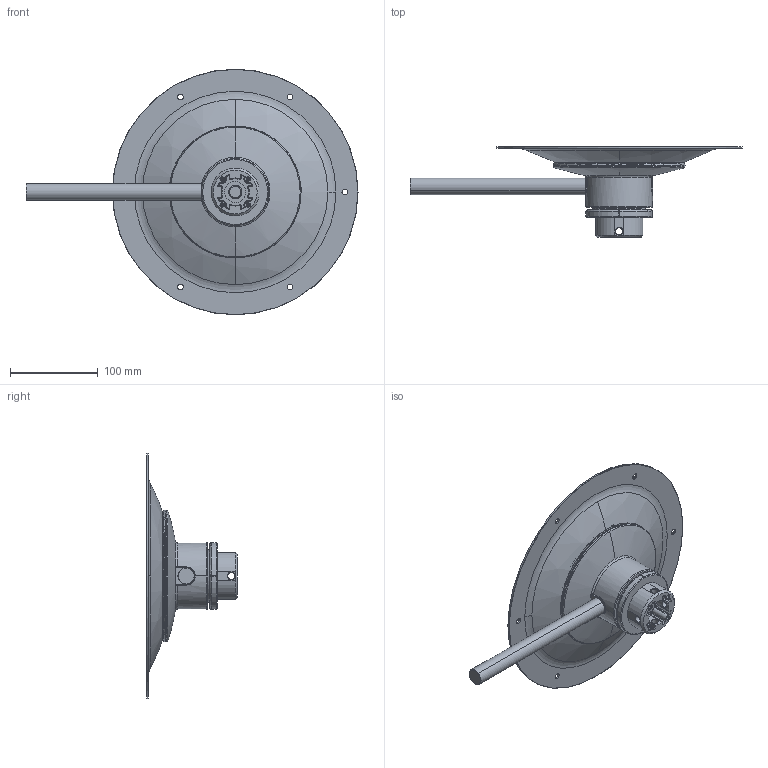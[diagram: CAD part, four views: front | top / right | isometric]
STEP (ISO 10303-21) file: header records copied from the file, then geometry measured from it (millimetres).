
FILE_DESCRIPTION (( 'STEP AP214' ), '1' );
FILE_NAME ('B135-LVN-B公開.STEP', '2022-05-23T03:46:31', ( '' ), ( '' ), 'SwSTEP 2.0', 'SolidWorks 2019', '' );
FILE_SCHEMA (( 'AUTOMOTIVE_DESIGN' ));
Length unit declared in the file: millimetre
Products named in the file (13): LockNut_B; UpperPlate; 平座金M8x24; ばね座金M8; SimCover; Lever; B135-LVN-B公開; LockNutCover; TablePlate_SUS; Sim; M30Bolt; 六角ボルトM8x20; ShaftBaseN
Assembly tree (12 placements, depth 2):
  B135-LVN-B公開
    ShaftBaseN
    M30Bolt
    平座金M8x24
    ばね座金M8
    六角ボルトM8x20
    LockNut_B
    UpperPlate
    SimCover
    Sim
    TablePlate_SUS
    LockNutCover
    Lever
Bounding box: 378.5 x 103.45 x 280 mm (x, y, z)
Volume: 569131.9 mm3; surface area: 362506.4 mm2
Topology: 12 solids, 12 shells, 882 faces, 2230 edges, 1335 vertices
Faces by surface type: cylinder 374, plane 163, torus 154, cone 75, sphere 67, bspline 49
Entity records: 37118 total; most frequent: CARTESIAN_POINT 15907, DIRECTION 4598, ORIENTED_EDGE 4344, EDGE_CURVE 2172, AXIS2_PLACEMENT_3D 1936, VERTEX_POINT 1333, CIRCLE 1088, EDGE_LOOP 937
